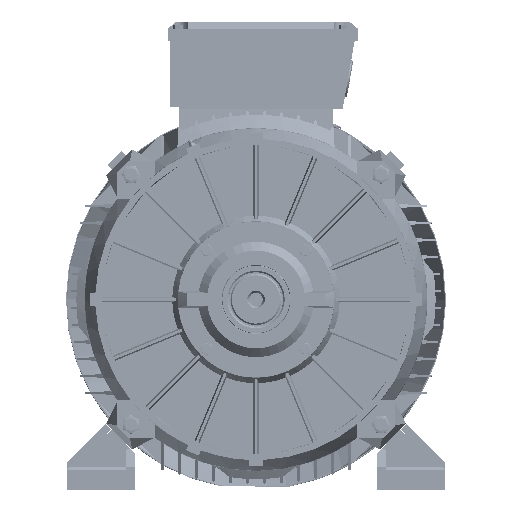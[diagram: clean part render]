
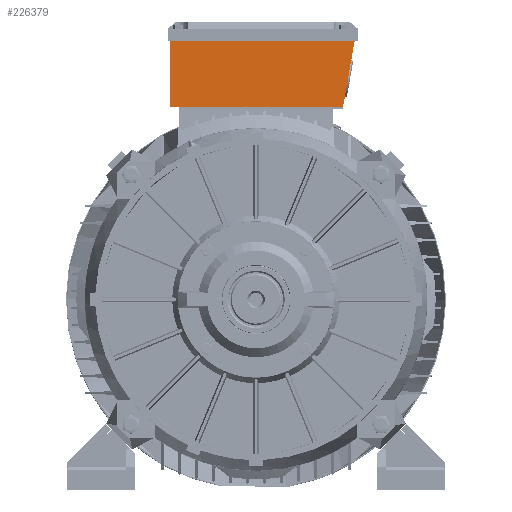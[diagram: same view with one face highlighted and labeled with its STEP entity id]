
A CAD part, left-side view. The second image highlights one B-rep face of the part: STEP entity #226379.
In plain terms, the highlighted planar face has unit normal (-1, 0, 0).
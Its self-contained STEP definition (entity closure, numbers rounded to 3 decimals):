
#421 = VECTOR ( 'NONE', #232903, 1000. ) ;
#1142 = DIRECTION ( 'NONE',  ( 0., -1., 0. ) ) ;
#2202 = CARTESIAN_POINT ( 'NONE',  ( -62.408, 130.487, 278.917 ) ) ;
#5682 = CARTESIAN_POINT ( 'NONE',  ( -62.408, -123.442, 278.917 ) ) ;
#9130 = VECTOR ( 'NONE', #14219, 1000. ) ;
#14219 = DIRECTION ( 'NONE',  ( 0., -0.174, 0.985 ) ) ;
#17011 = EDGE_CURVE ( 'NONE', #65237, #316155, #85229, .T. ) ;
#32458 = CARTESIAN_POINT ( 'NONE',  ( -62.408, 116.987, 275.917 ) ) ;
#65237 = VERTEX_POINT ( 'NONE', #288462 ) ;
#70421 = LINE ( 'NONE', #265981, #421 ) ;
#85229 = LINE ( 'NONE', #2202, #331444 ) ;
#94458 = ORIENTED_EDGE ( 'NONE', *, *, #161469, .T. ) ;
#97819 = ORIENTED_EDGE ( 'NONE', *, *, #220819, .T. ) ;
#98261 = VERTEX_POINT ( 'NONE', #116082 ) ;
#108465 = LINE ( 'NONE', #281748, #187160 ) ;
#114755 = DIRECTION ( 'NONE',  ( 0., -1., 0. ) ) ;
#116082 = CARTESIAN_POINT ( 'NONE',  ( -62.408, -140.545, 375.917 ) ) ;
#117315 = DIRECTION ( 'NONE',  ( -1., 0., 0. ) ) ;
#122256 = AXIS2_PLACEMENT_3D ( 'NONE', #32458, #117315, #1142 ) ;
#124968 = LINE ( 'NONE', #239292, #9130 ) ;
#140372 = CARTESIAN_POINT ( 'NONE',  ( -62.408, 130.487, 375.917 ) ) ;
#154388 = EDGE_LOOP ( 'NONE', ( #185721, #245201, #94458, #97819 ) ) ;
#161469 = EDGE_CURVE ( 'NONE', #98261, #163074, #70421, .T. ) ;
#163074 = VERTEX_POINT ( 'NONE', #140372 ) ;
#185721 = ORIENTED_EDGE ( 'NONE', *, *, #17011, .T. ) ;
#187160 = VECTOR ( 'NONE', #220976, 1000. ) ;
#220819 = EDGE_CURVE ( 'NONE', #163074, #65237, #108465, .T. ) ;
#220976 = DIRECTION ( 'NONE',  ( 0., 0., -1. ) ) ;
#226379 = ADVANCED_FACE ( 'NONE', ( #309183 ), #338724, .T. ) ;
#232903 = DIRECTION ( 'NONE',  ( 0., 1., 0. ) ) ;
#239292 = CARTESIAN_POINT ( 'NONE',  ( -62.408, -122.913, 275.917 ) ) ;
#245201 = ORIENTED_EDGE ( 'NONE', *, *, #282597, .T. ) ;
#265981 = CARTESIAN_POINT ( 'NONE',  ( -62.408, 130.487, 375.917 ) ) ;
#281748 = CARTESIAN_POINT ( 'NONE',  ( -62.408, 130.487, 278.917 ) ) ;
#282597 = EDGE_CURVE ( 'NONE', #316155, #98261, #124968, .T. ) ;
#288462 = CARTESIAN_POINT ( 'NONE',  ( -62.408, 130.487, 278.917 ) ) ;
#309183 = FACE_OUTER_BOUND ( 'NONE', #154388, .T. ) ;
#316155 = VERTEX_POINT ( 'NONE', #5682 ) ;
#331444 = VECTOR ( 'NONE', #114755, 1000. ) ;
#338724 = PLANE ( 'NONE',  #122256 ) ;
